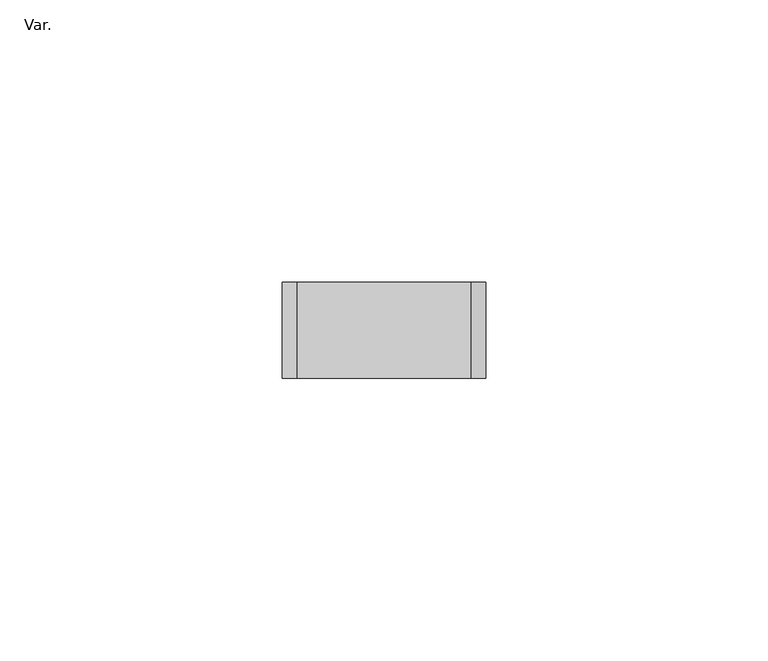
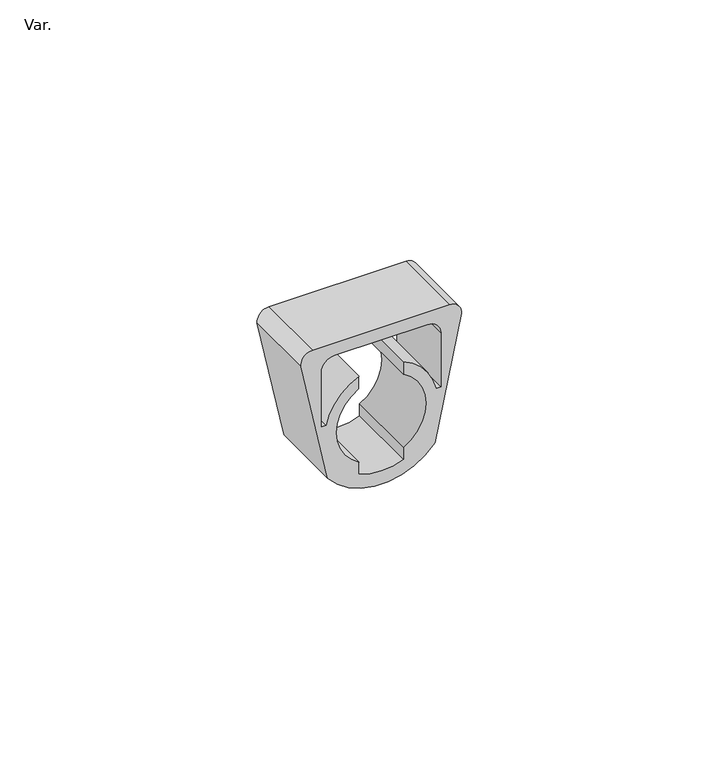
"""IFC4 building model written with IfcOpenShell, lengths in millimetres: proxy geometry, AmancoWavin_ConexõesdoConduite_LinhaEletricaElectroAmancoAbraçadeira : Var.."""

from ifc_helpers import new_model, si_unit, point, frame, frame_2d, origin, origin_2d, place, context, project, spatial, polyline, circle_curve, trimmed, segment, composite_curve, outline, extrude, source, transform, mapped, element, save


def var_dc7f8485(model_context):
    return source(origin(), model_context, "Body", "SweptSolid", [
        extrude(outline(composite_curve([segment(polyline([(18.5183241, -18.0), (-10.0968745, -12.0226089)]), True, "CONTINUOUS"), segment(trimmed(circle_curve(origin_2d(), 15.7), [point((-10.0968745, -12.0226089))], [point((-10.0968745, 12.0226089))], False, "CARTESIAN"), True, "CONTINUOUS"), segment(polyline([(-10.0968745, 12.0226089), (18.5183241, 18.0)]), True, "CONTINUOUS"), segment(trimmed(circle_curve(frame_2d((18.8151887, 15.3316516)), 2.6848113), [point((18.5183241, 18.0))], [point((21.5, 15.3316516))], False, "CARTESIAN"), True, "CONTINUOUS"), segment(polyline([(21.5, 15.3316516), (21.5, -15.3316516)]), True, "CONTINUOUS"), segment(trimmed(circle_curve(frame_2d((18.8151887, -15.3316516)), 2.6848113), [point((21.5, -15.3316516))], [point((18.5183241, -18.0))], False, "CARTESIAN"), True, "CONTINUOUS")], self_intersect=False), holes=[composite_curve([segment(trimmed(circle_curve(origin_2d(), 10.0), [point((-8.660254, -5.0))], [point((8.660254, -5.0))], True, "CARTESIAN"), True, "CONTINUOUS"), segment(polyline([(8.660254, -5.0), (11.6743308, -5.0)]), True, "CONTINUOUS"), segment(trimmed(circle_curve(origin_2d(), 12.7), [point((11.6743308, -5.0))], [point((2.7, -12.4096736))], False, "CARTESIAN"), True, "CONTINUOUS"), segment(polyline([(2.7, -12.4096736), (2.7, -13.4096736), (15.5183241, -13.4096736)]), True, "CONTINUOUS"), segment(trimmed(circle_curve(frame_2d((15.5183241, -10.4096736)), 3.0), [point((15.5183241, -13.4096736))], [point((18.5183241, -10.4096736))], True, "CARTESIAN"), True, "CONTINUOUS"), segment(polyline([(18.5183241, -10.4096736), (18.5183241, 10.4096736)]), True, "CONTINUOUS"), segment(trimmed(circle_curve(frame_2d((15.5183241, 10.4096736)), 3.0), [point((18.5183241, 10.4096736))], [point((15.5183241, 13.4096736))], True, "CARTESIAN"), True, "CONTINUOUS"), segment(polyline([(15.5183241, 13.4096736), (2.7, 13.4096736), (2.7, 12.4096736)]), True, "CONTINUOUS"), segment(trimmed(circle_curve(origin_2d(), 12.7), [point((2.7, 12.4096736))], [point((11.6743308, 5.0))], False, "CARTESIAN"), True, "CONTINUOUS"), segment(polyline([(11.6743308, 5.0), (8.660254, 5.0)]), True, "CONTINUOUS"), segment(trimmed(circle_curve(origin_2d(), 10.0), [point((8.660254, 5.0))], [point((-8.660254, 5.0))], True, "CARTESIAN"), True, "CONTINUOUS"), segment(polyline([(-8.660254, 5.0), (-11.4784871, 5.0)]), True, "CONTINUOUS"), segment(trimmed(circle_curve(origin_2d(), 12.5202103), [point((-11.4784871, 5.0))], [point((-11.4784871, -5.0))], True, "CARTESIAN"), True, "CONTINUOUS"), segment(polyline([(-11.4784871, -5.0), (-8.660254, -5.0)]), True, "CONTINUOUS")], self_intersect=False)]), frame((0.0, -8.5, 0.0), z_axis=(0.0, 1.0, 0.0), x_axis=(0.0, 0.0, 1.0)), (0.0, 0.0, 1.0), 17.0),
    ])


if __name__ == "__main__":
    model = new_model("IFC4")
    model_context = context("Model", 3, world=origin())
    ifc_project = project(units=[si_unit("LENGTHUNIT", "METRE", prefix="MILLI")], contexts=[model_context])
    site = spatial("IfcSite", under=ifc_project)
    building = spatial("IfcBuilding", under=site)
    placement = place(None, origin())
    var_shape = var_dc7f8485(model_context)
    element("IfcBuildingElementProxy", 1, Name="AmancoWavin_ConexõesdoConduite_LinhaEletricaElectroAmancoAbraçadeira : Var.", ObjectType="AmancoWavin_ConexõesdoConduite_LinhaEletricaElectroAmancoAbraçadeira : Var.", at=placement, inside=building, context=model_context, shape_type="MappedRepresentation", body=[
        mapped(var_shape, transform((0.0, 0.0, 0.0), x_axis=(1.0, 0.0, 0.0), y_axis=(0.0, 1.0, 0.0), z_axis=(0.0, 0.0, 1.0))),
    ])
    save(model, "model.ifc")
